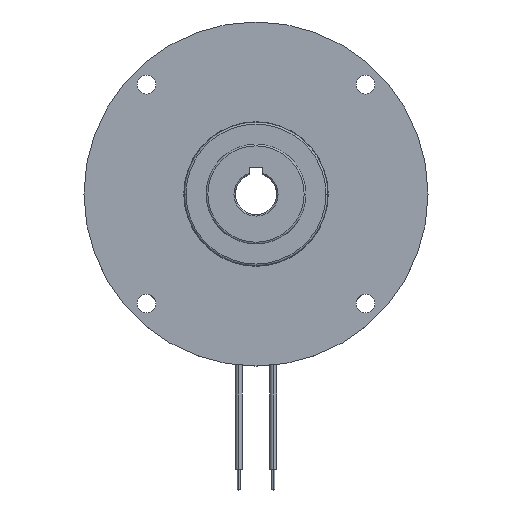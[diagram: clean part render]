
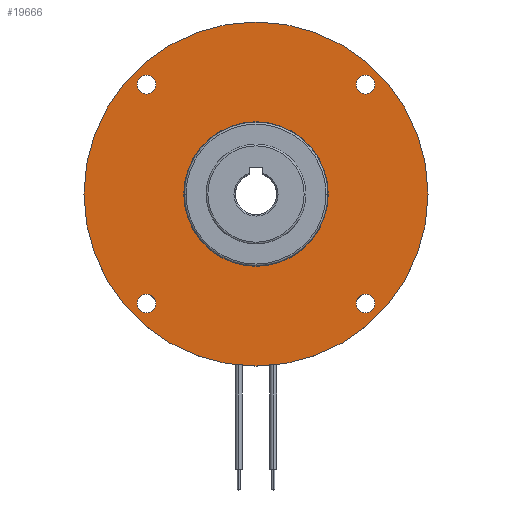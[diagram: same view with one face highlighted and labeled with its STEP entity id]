
A CAD part, top view. The second image highlights one B-rep face of the part: STEP entity #19666.
In plain terms, the highlighted planar face has unit normal (0, 0, 1).
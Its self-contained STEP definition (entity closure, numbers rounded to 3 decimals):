
#375 = AXIS2_PLACEMENT_3D ( 'NONE', #16771, #21012, #11262 ) ;
#458 = VERTEX_POINT ( 'NONE', #7434 ) ;
#627 = CARTESIAN_POINT ( 'NONE',  ( 31.82, 31.82, 0. ) ) ;
#1125 = AXIS2_PLACEMENT_3D ( 'NONE', #8560, #24317, #7133 ) ;
#1365 = DIRECTION ( 'NONE',  ( -1., 0., 0. ) ) ;
#1374 = VERTEX_POINT ( 'NONE', #22750 ) ;
#1598 = CIRCLE ( 'NONE', #375, 50. ) ;
#1645 = DIRECTION ( 'NONE',  ( 0., 0., -1. ) ) ;
#1767 = CARTESIAN_POINT ( 'NONE',  ( 31.82, -31.82, 0. ) ) ;
#1853 = EDGE_CURVE ( 'NONE', #13916, #1374, #4725, .T. ) ;
#1863 = CARTESIAN_POINT ( 'NONE',  ( 0., 0., 0. ) ) ;
#2016 = AXIS2_PLACEMENT_3D ( 'NONE', #20570, #25049, #2982 ) ;
#2107 = VERTEX_POINT ( 'NONE', #15829 ) ;
#2423 = DIRECTION ( 'NONE',  ( -1., 0., 0. ) ) ;
#2790 = ORIENTED_EDGE ( 'NONE', *, *, #3757, .T. ) ;
#2982 = DIRECTION ( 'NONE',  ( -1., 0., 0. ) ) ;
#3097 = EDGE_LOOP ( 'NONE', ( #3623, #2790 ) ) ;
#3566 = DIRECTION ( 'NONE',  ( -1., 0., 0. ) ) ;
#3612 = VERTEX_POINT ( 'NONE', #4490 ) ;
#3623 = ORIENTED_EDGE ( 'NONE', *, *, #13168, .T. ) ;
#3757 = EDGE_CURVE ( 'NONE', #20468, #23953, #5442, .T. ) ;
#3926 = FACE_BOUND ( 'NONE', #24742, .T. ) ;
#4490 = CARTESIAN_POINT ( 'NONE',  ( -50., 0., 0. ) ) ;
#4555 = CARTESIAN_POINT ( 'NONE',  ( 21., 0., 0. ) ) ;
#4725 = CIRCLE ( 'NONE', #20691, 2.75 ) ;
#5185 = CIRCLE ( 'NONE', #18294, 2.75 ) ;
#5442 = CIRCLE ( 'NONE', #8302, 2.75 ) ;
#5623 = DIRECTION ( 'NONE',  ( 0., 0., -1. ) ) ;
#5909 = DIRECTION ( 'NONE',  ( 0., 0., -1. ) ) ;
#5914 = CIRCLE ( 'NONE', #8774, 50. ) ;
#6181 = CIRCLE ( 'NONE', #6984, 2.75 ) ;
#6249 = DIRECTION ( 'NONE',  ( -1., 0., 0. ) ) ;
#6254 = CARTESIAN_POINT ( 'NONE',  ( 34.57, -31.82, 0. ) ) ;
#6405 = DIRECTION ( 'NONE',  ( -1., 0., 0. ) ) ;
#6413 = DIRECTION ( 'NONE',  ( 0., 0., -1. ) ) ;
#6710 = ORIENTED_EDGE ( 'NONE', *, *, #1853, .T. ) ;
#6984 = AXIS2_PLACEMENT_3D ( 'NONE', #18913, #24323, #22386 ) ;
#7045 = CARTESIAN_POINT ( 'NONE',  ( -21., 0., 0. ) ) ;
#7133 = DIRECTION ( 'NONE',  ( -1., 0., 0. ) ) ;
#7183 = CARTESIAN_POINT ( 'NONE',  ( -31.82, 31.82, 0. ) ) ;
#7434 = CARTESIAN_POINT ( 'NONE',  ( -34.57, 31.82, 0. ) ) ;
#7546 = DIRECTION ( 'NONE',  ( -1., 0., 0. ) ) ;
#7837 = ORIENTED_EDGE ( 'NONE', *, *, #24291, .T. ) ;
#7919 = FACE_BOUND ( 'NONE', #16212, .T. ) ;
#8302 = AXIS2_PLACEMENT_3D ( 'NONE', #1767, #22956, #13078 ) ;
#8456 = DIRECTION ( 'NONE',  ( 0., 0., -1. ) ) ;
#8515 = EDGE_LOOP ( 'NONE', ( #21195, #21849 ) ) ;
#8560 = CARTESIAN_POINT ( 'NONE',  ( 0., 0., 0. ) ) ;
#8774 = AXIS2_PLACEMENT_3D ( 'NONE', #1863, #9710, #17537 ) ;
#9642 = EDGE_CURVE ( 'NONE', #10108, #9851, #23326, .T. ) ;
#9710 = DIRECTION ( 'NONE',  ( 0., 0., -1. ) ) ;
#9851 = VERTEX_POINT ( 'NONE', #7045 ) ;
#9947 = ORIENTED_EDGE ( 'NONE', *, *, #23651, .F. ) ;
#10070 = CARTESIAN_POINT ( 'NONE',  ( 0., 50., 0. ) ) ;
#10076 = CARTESIAN_POINT ( 'NONE',  ( -34.57, -31.82, 0. ) ) ;
#10108 = VERTEX_POINT ( 'NONE', #4555 ) ;
#10771 = EDGE_CURVE ( 'NONE', #458, #2107, #21258, .T. ) ;
#11023 = AXIS2_PLACEMENT_3D ( 'NONE', #11513, #5623, #7546 ) ;
#11262 = DIRECTION ( 'NONE',  ( -1., 0., 0. ) ) ;
#11381 = AXIS2_PLACEMENT_3D ( 'NONE', #7183, #1645, #3566 ) ;
#11513 = CARTESIAN_POINT ( 'NONE',  ( -31.82, 31.82, 0. ) ) ;
#11750 = PLANE ( 'NONE',  #23181 ) ;
#11758 = CARTESIAN_POINT ( 'NONE',  ( 50., 0., 0. ) ) ;
#11995 = FACE_OUTER_BOUND ( 'NONE', #19312, .T. ) ;
#12168 = CARTESIAN_POINT ( 'NONE',  ( -31.82, -31.82, 0. ) ) ;
#12186 = CIRCLE ( 'NONE', #1125, 21. ) ;
#12526 = CARTESIAN_POINT ( 'NONE',  ( 29.07, 31.82, 0. ) ) ;
#13016 = CARTESIAN_POINT ( 'NONE',  ( 29.07, -31.82, 0. ) ) ;
#13038 = VERTEX_POINT ( 'NONE', #15850 ) ;
#13078 = DIRECTION ( 'NONE',  ( -1., 0., 0. ) ) ;
#13168 = EDGE_CURVE ( 'NONE', #23953, #20468, #6181, .T. ) ;
#13654 = EDGE_CURVE ( 'NONE', #3612, #23812, #1598, .T. ) ;
#13860 = CARTESIAN_POINT ( 'NONE',  ( -31.82, -31.82, 0. ) ) ;
#13916 = VERTEX_POINT ( 'NONE', #12526 ) ;
#14439 = ORIENTED_EDGE ( 'NONE', *, *, #20065, .T. ) ;
#14717 = CARTESIAN_POINT ( 'NONE',  ( 31.82, 31.82, 0. ) ) ;
#15408 = CIRCLE ( 'NONE', #22390, 2.75 ) ;
#15519 = EDGE_CURVE ( 'NONE', #2107, #458, #22423, .T. ) ;
#15829 = CARTESIAN_POINT ( 'NONE',  ( -29.07, 31.82, 0. ) ) ;
#15850 = CARTESIAN_POINT ( 'NONE',  ( -29.07, -31.82, 0. ) ) ;
#16212 = EDGE_LOOP ( 'NONE', ( #18309, #24971 ) ) ;
#16771 = CARTESIAN_POINT ( 'NONE',  ( 0., 0., 0. ) ) ;
#17465 = CIRCLE ( 'NONE', #21951, 2.75 ) ;
#17537 = DIRECTION ( 'NONE',  ( -1., 0., 0. ) ) ;
#17656 = FACE_BOUND ( 'NONE', #3097, .T. ) ;
#18155 = FACE_BOUND ( 'NONE', #21649, .T. ) ;
#18294 = AXIS2_PLACEMENT_3D ( 'NONE', #13860, #5909, #19483 ) ;
#18309 = ORIENTED_EDGE ( 'NONE', *, *, #20516, .T. ) ;
#18904 = ORIENTED_EDGE ( 'NONE', *, *, #22861, .T. ) ;
#18913 = CARTESIAN_POINT ( 'NONE',  ( 31.82, -31.82, 0. ) ) ;
#19312 = EDGE_LOOP ( 'NONE', ( #19988, #9947 ) ) ;
#19483 = DIRECTION ( 'NONE',  ( -1., 0., 0. ) ) ;
#19666 = ADVANCED_FACE ( 'NONE', ( #3926, #17656, #18155, #20083, #11995, #7919 ), #11750, .F. ) ;
#19988 = ORIENTED_EDGE ( 'NONE', *, *, #13654, .F. ) ;
#20065 = EDGE_CURVE ( 'NONE', #13038, #23772, #15408, .T. ) ;
#20083 = FACE_BOUND ( 'NONE', #8515, .T. ) ;
#20362 = DIRECTION ( 'NONE',  ( 0., 0., -1. ) ) ;
#20468 = VERTEX_POINT ( 'NONE', #6254 ) ;
#20516 = EDGE_CURVE ( 'NONE', #9851, #10108, #12186, .T. ) ;
#20570 = CARTESIAN_POINT ( 'NONE',  ( 0., 0., 0. ) ) ;
#20691 = AXIS2_PLACEMENT_3D ( 'NONE', #14717, #20362, #1365 ) ;
#21012 = DIRECTION ( 'NONE',  ( 0., 0., -1. ) ) ;
#21195 = ORIENTED_EDGE ( 'NONE', *, *, #10771, .T. ) ;
#21258 = CIRCLE ( 'NONE', #11023, 2.75 ) ;
#21649 = EDGE_LOOP ( 'NONE', ( #18904, #14439 ) ) ;
#21849 = ORIENTED_EDGE ( 'NONE', *, *, #15519, .T. ) ;
#21951 = AXIS2_PLACEMENT_3D ( 'NONE', #627, #6413, #2423 ) ;
#22386 = DIRECTION ( 'NONE',  ( -1., 0., 0. ) ) ;
#22390 = AXIS2_PLACEMENT_3D ( 'NONE', #12168, #8456, #6405 ) ;
#22423 = CIRCLE ( 'NONE', #11381, 2.75 ) ;
#22750 = CARTESIAN_POINT ( 'NONE',  ( 34.57, 31.82, 0. ) ) ;
#22861 = EDGE_CURVE ( 'NONE', #23772, #13038, #5185, .T. ) ;
#22956 = DIRECTION ( 'NONE',  ( 0., 0., -1. ) ) ;
#23181 = AXIS2_PLACEMENT_3D ( 'NONE', #10070, #23810, #6249 ) ;
#23326 = CIRCLE ( 'NONE', #2016, 21. ) ;
#23651 = EDGE_CURVE ( 'NONE', #23812, #3612, #5914, .T. ) ;
#23772 = VERTEX_POINT ( 'NONE', #10076 ) ;
#23810 = DIRECTION ( 'NONE',  ( 0., 0., -1. ) ) ;
#23812 = VERTEX_POINT ( 'NONE', #11758 ) ;
#23953 = VERTEX_POINT ( 'NONE', #13016 ) ;
#24291 = EDGE_CURVE ( 'NONE', #1374, #13916, #17465, .T. ) ;
#24317 = DIRECTION ( 'NONE',  ( 0., 0., -1. ) ) ;
#24323 = DIRECTION ( 'NONE',  ( 0., 0., -1. ) ) ;
#24742 = EDGE_LOOP ( 'NONE', ( #6710, #7837 ) ) ;
#24971 = ORIENTED_EDGE ( 'NONE', *, *, #9642, .T. ) ;
#25049 = DIRECTION ( 'NONE',  ( 0., 0., -1. ) ) ;
